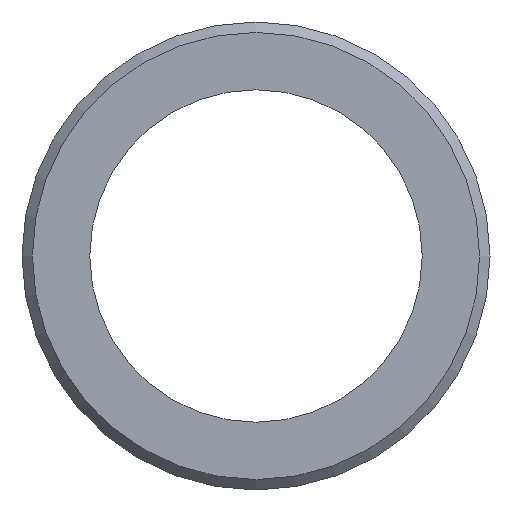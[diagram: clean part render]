
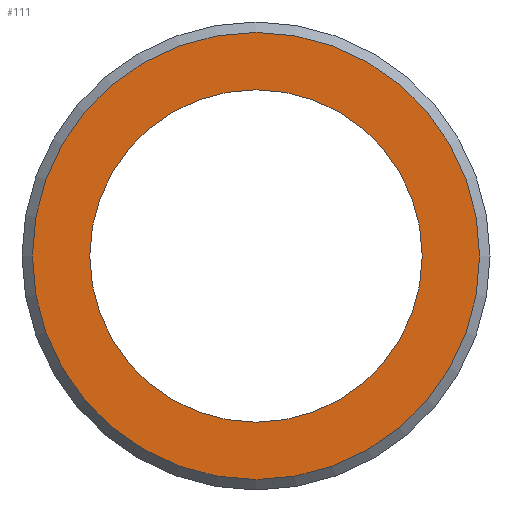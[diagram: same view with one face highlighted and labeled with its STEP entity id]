
A CAD part, front view. The second image highlights one B-rep face of the part: STEP entity #111.
In plain terms, the highlighted planar face has unit normal (0, -1, 0).
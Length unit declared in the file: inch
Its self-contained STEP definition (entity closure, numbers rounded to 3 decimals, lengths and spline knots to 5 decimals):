
#16=FACE_BOUND('',#33,.T.);
#18=PLANE('',#139);
#25=FACE_OUTER_BOUND('',#32,.T.);
#32=EDGE_LOOP('',(#96));
#33=EDGE_LOOP('',(#97,#98));
#50=CIRCLE('',#138,0.2065);
#51=CIRCLE('',#140,0.1535);
#52=CIRCLE('',#141,0.1535);
#60=VERTEX_POINT('',#202);
#61=VERTEX_POINT('',#206);
#62=VERTEX_POINT('',#207);
#72=EDGE_CURVE('',#60,#60,#50,.T.);
#74=EDGE_CURVE('',#61,#62,#51,.T.);
#75=EDGE_CURVE('',#62,#61,#52,.T.);
#96=ORIENTED_EDGE('',*,*,#72,.F.);
#97=ORIENTED_EDGE('',*,*,#74,.F.);
#98=ORIENTED_EDGE('',*,*,#75,.F.);
#111=ADVANCED_FACE('',(#25,#16),#18,.T.);
#138=AXIS2_PLACEMENT_3D('',#203,#169,#170);
#139=AXIS2_PLACEMENT_3D('',#205,#172,#173);
#140=AXIS2_PLACEMENT_3D('',#208,#174,#175);
#141=AXIS2_PLACEMENT_3D('',#209,#176,#177);
#169=DIRECTION('center_axis',(0.,1.,0.));
#170=DIRECTION('ref_axis',(0.,0.,1.));
#172=DIRECTION('center_axis',(0.,-1.,0.));
#173=DIRECTION('ref_axis',(0.,0.,-1.));
#174=DIRECTION('center_axis',(0.,-1.,0.));
#175=DIRECTION('ref_axis',(1.,0.,0.));
#176=DIRECTION('center_axis',(0.,-1.,0.));
#177=DIRECTION('ref_axis',(1.,0.,0.));
#202=CARTESIAN_POINT('',(0.,0.,-0.2065));
#203=CARTESIAN_POINT('Origin',(0.,0.,0.));
#205=CARTESIAN_POINT('Origin',(0.,0.,-0.1535));
#206=CARTESIAN_POINT('',(0.,0.,-0.1535));
#207=CARTESIAN_POINT('',(0.,0.,0.1535));
#208=CARTESIAN_POINT('Origin',(0.,0.,0.));
#209=CARTESIAN_POINT('Origin',(0.,0.,0.));
